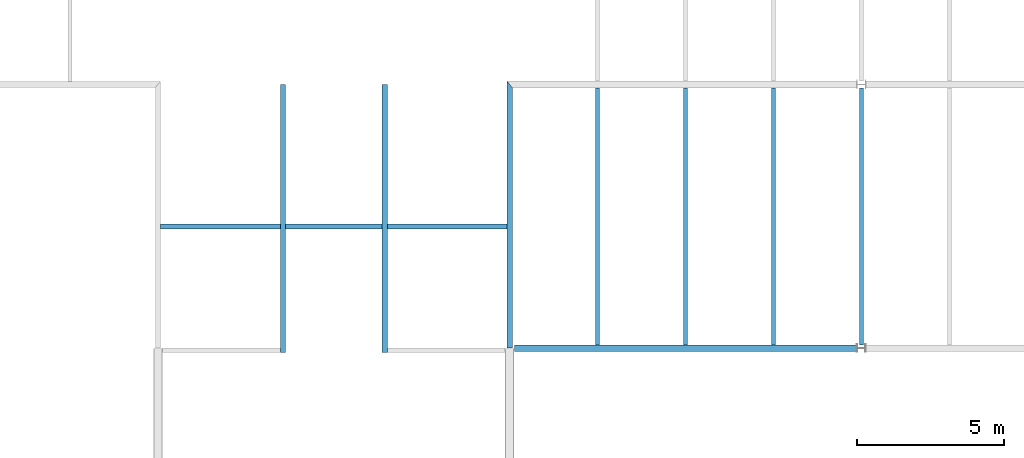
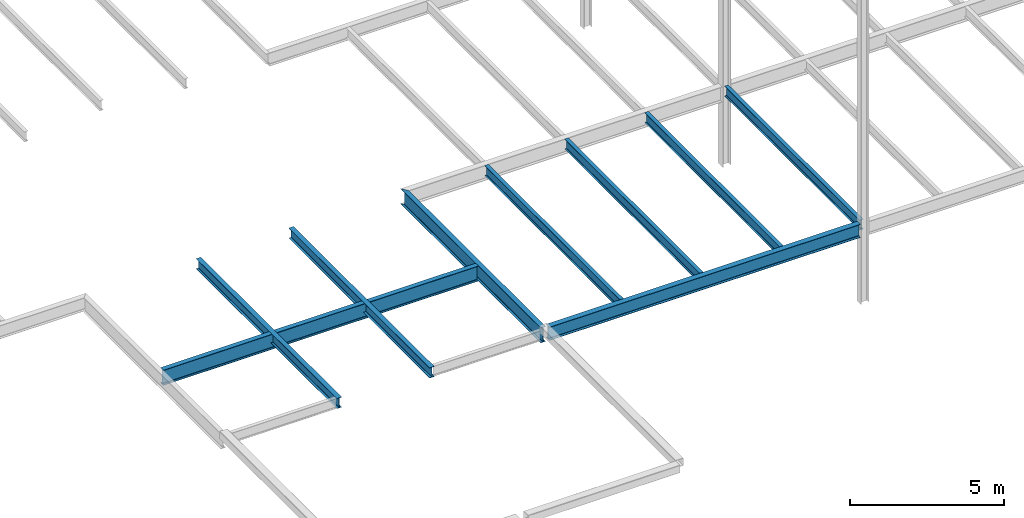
# One storey, part 15 of 26: 9 beams.
"""IFC2X3 building model written with IfcOpenShell, lengths in millimetres."""

import ifcopenshell
import ifcopenshell.guid

model = None  # the IFC model being written
_history = None  # IfcOwnerHistory: only IFC2X3 demands one
_inside = {}  # id of a spatial element -> (the spatial element, [elements in it])
_under = {}  # id of a project, library or spatial element -> (it, [spatial elements below it])
_declared = {}  # id of a project -> (the project, [libraries it declares])
_typed = {}  # id of a type object -> (the type object, [elements of that type])
_made_of = {}  # id of a material, layer set ... -> (it, [elements and type objects made of it])


def new_model(schema):
    """Start an empty IFC model of exactly this schema.

    Asked for "IFC4X3", IfcOpenShell would pick the latest addendum, in which some entities
    have other attributes; the version numbers below select the first issue.
    IFC2X3 requires an IfcOwnerHistory on every rooted entity: one is made here for all.
    """
    global model, _history
    if schema == "IFC4X3":
        model = ifcopenshell.file(schema_version=(4, 3, 0, 0))
    else:
        model = ifcopenshell.file(schema=schema)
    _inside.clear()
    _under.clear()
    _declared.clear()
    _typed.clear()
    _made_of.clear()
    _history = None
    if model.schema == "IFC2X3":
        org = make("IfcOrganization", Name="unknown")
        user = make(
            "IfcPersonAndOrganization",
            ThePerson=make("IfcPerson", FamilyName="unknown"),
            TheOrganization=org,
        )
        app = make(
            "IfcApplication",
            ApplicationDeveloper=org,
            Version="unknown",
            ApplicationFullName="unknown",
            ApplicationIdentifier="unknown",
        )
        _history = make(
            "IfcOwnerHistory",
            OwningUser=user,
            OwningApplication=app,
            ChangeAction="ADDED",
            CreationDate=0,
        )
    return model


def make(cls, **values):
    """One entity of the class cls with the attributes given. An attribute that is None is left unset."""
    return model.create_entity(
        cls, **{name: value for name, value in values.items() if value is not None}
    )


def rooted(cls, **values):
    """An entity with a GlobalId (a new one), such as an element, a storey or a relation."""
    return make(cls, GlobalId=ifcopenshell.guid.new(), OwnerHistory=_history, **values)


def si_unit(unit_type, name, prefix=None):
    """IfcSIUnit, for example si_unit("LENGTHUNIT", "METRE", prefix="MILLI")."""
    return make("IfcSIUnit", UnitType=unit_type, Prefix=prefix, Name=name)


def assignment(units):
    """IfcUnitAssignment: the units of a project."""
    return None if units is None else make("IfcUnitAssignment", Units=units)


def point(xyz):
    """IfcCartesianPoint."""
    return None if xyz is None else make("IfcCartesianPoint", Coordinates=xyz)


def direction(xyz):
    """IfcDirection."""
    return None if xyz is None else make("IfcDirection", DirectionRatios=xyz)


def frame(location, z_axis=None, x_axis=None):
    """IfcAxis2Placement3D, a coordinate frame: its origin and axes. An axis left out is left unset."""
    return make(
        "IfcAxis2Placement3D",
        Location=point(location),
        Axis=direction(z_axis),
        RefDirection=direction(x_axis),
    )


def origin():
    """The frame at (0, 0, 0) with its axes left unset."""
    return frame((0.0, 0.0, 0.0))


def place(relative_to, where):
    """IfcLocalPlacement: puts the frame where relative to a parent placement (None: the world)."""
    return make(
        "IfcLocalPlacement", PlacementRelTo=relative_to, RelativePlacement=where
    )


def context(
    kind, dimensions, precision=None, world=None, true_north=None, identifier=None
):
    """IfcGeometricRepresentationContext, for example the 3D "Model" context."""
    return make(
        "IfcGeometricRepresentationContext",
        ContextIdentifier=identifier,
        ContextType=kind,
        CoordinateSpaceDimension=dimensions,
        Precision=precision,
        WorldCoordinateSystem=world,
        TrueNorth=true_north,
    )


def project(units=None, contexts=None):
    """IfcProject with its units and contexts."""
    return rooted(
        "IfcProject",
        Name="project",
        RepresentationContexts=contexts,
        UnitsInContext=assignment(units),
    )


def spatial(cls, under=None, at=None, **own):
    """A site, building, storey or space (cls), placed at a placement, below another one or the project."""
    s = rooted(cls, ObjectPlacement=at, **own)
    if under is not None:
        _under.setdefault(under.id(), (under, []))[1].append(s)
    return s


def faces_of(points, faces, orient=None, outer=None):
    """IfcFace entities. A face is a list of loops; a loop is a list of indices into points, from 0.

    orient and outer hold one flag for each loop. By default every Orientation is true, the
    first loop of a face is its IfcFaceOuterBound and the others are IfcFaceBound.
    """
    made = []
    for i, loops in enumerate(faces):
        bounds = []
        for j, loop in enumerate(loops):
            is_outer = j == 0 if outer is None else outer[i][j]
            bounds.append(
                make(
                    "IfcFaceOuterBound" if is_outer else "IfcFaceBound",
                    Bound=make("IfcPolyLoop", Polygon=[points[k] for k in loop]),
                    Orientation=True if orient is None else orient[i][j],
                )
            )
        made.append(make("IfcFace", Bounds=bounds))
    return made


def faceted_brep(points, faces, orient=None, outer=None, voids=None):
    """IfcFacetedBrep: a solid bounded by flat faces; with voids (closed shells), ...WithVoids."""
    shared = [point(p) for p in points]
    hull = make("IfcClosedShell", CfsFaces=faces_of(shared, faces, orient, outer))
    if voids is None:
        return make("IfcFacetedBrep", Outer=hull)
    return make(
        "IfcFacetedBrepWithVoids",
        Outer=hull,
        Voids=[
            make(cls, CfsFaces=faces_of(shared, fs, o, b)) for cls, fs, o, b in voids
        ],
    )


def shape(context_of_items, identifier, shape_type, items):
    """IfcShapeRepresentation: the items that make up one representation, for example the "Body"."""
    return make(
        "IfcShapeRepresentation",
        ContextOfItems=context_of_items,
        RepresentationIdentifier=identifier,
        RepresentationType=shape_type,
        Items=items,
    )


def material(Name=None, Category=None):
    """IfcMaterial."""
    return make("IfcMaterial", Name=Name, Category=Category)


def made_of(thing, what):
    """Note that an element or type object is made of a material, layer set ...; save() writes the relation."""
    if what is not None:
        _made_of.setdefault(what.id(), (what, []))[1].append(thing)
    return thing


def element(
    cls,
    number,
    at=None,
    inside=None,
    cuts=None,
    type_object=None,
    material=None,
    context=None,
    identifier="Body",
    shape_type=None,
    held_by="IfcProductDefinitionShape",
    body=None,
    shapes=None,
    **own,
):
    """One element of the class cls, such as IfcWall. Its Tag is "e" and its number.

    at: its placement. inside: the storey or other place that contains it. cuts: it is an
    opening in that element (IfcRelVoidsElement). A single representation is given by context,
    identifier, shape_type and body (its items); several are given by shapes. held_by: the class
    of the entity that holds the representations. save() writes the other relations.
    """
    e = rooted(cls, Tag="e%d" % number, ObjectPlacement=at, **own)
    if body is not None:
        shapes = [shape(context, identifier, shape_type, body)]
    if shapes is not None:
        e.Representation = make(held_by, Representations=shapes)
    if inside is not None:
        _inside.setdefault(inside.id(), (inside, []))[1].append(e)
    if cuts is not None:
        rooted(
            "IfcRelVoidsElement", RelatingBuildingElement=cuts, RelatedOpeningElement=e
        )
    if type_object is not None:
        _typed.setdefault(type_object.id(), (type_object, []))[1].append(e)
    return made_of(e, material)


def aggregate(whole, parts):
    """IfcRelAggregates: a whole, such as a stair, and the parts it consists of."""
    return rooted("IfcRelAggregates", RelatingObject=whole, RelatedObjects=parts)


def save(model, path):
    """Write the relations noted so far, then the file.

    IfcRelAggregates (storeys below a building ...), IfcRelContainedInSpatialStructure (elements
    in a storey), IfcRelDefinesByType, IfcRelAssociatesMaterial and IfcRelDeclares: one each for
    every whole, place, type object, material and project.
    """
    for whole, parts in _under.values():
        aggregate(whole, parts)
    for where, things in _inside.values():
        rooted(
            "IfcRelContainedInSpatialStructure",
            RelatedElements=things,
            RelatingStructure=where,
        )
    for kind, things in _typed.values():
        rooted("IfcRelDefinesByType", RelatedObjects=things, RelatingType=kind)
    for what, things in _made_of.values():
        rooted("IfcRelAssociatesMaterial", RelatedObjects=things, RelatingMaterial=what)
    for by, libraries in _declared.values():
        rooted("IfcRelDeclares", RelatingContext=by, RelatedDefinitions=libraries)
    model.write(path)


model = new_model("IFC2X3")

# Units and contexts
context_of_model = context(None, 3, precision=1e-05, world=origin())
ifc_project = project(units=[si_unit("LENGTHUNIT", "METRE", prefix="MILLI")], contexts=[context_of_model])

# Building, storey
building = spatial("IfcBuilding", under=ifc_project, Name="Building", CompositionType="ELEMENT")
storey = spatial("IfcBuildingStorey", under=building, Name="FL4-FRM", CompositionType="ELEMENT")

# Beams
ifc_material_1 = material(Name="A992")
beam_1_placement = place(None, origin())
element("IfcBeam", 1, at=beam_1_placement, inside=storey, material=ifc_material_1, Name="B204", context=context_of_model, shape_type="Brep", body=[
    faceted_brep([(24070.0, 9104.5, 12974.0), (23930.0, 9104.5, 12974.0), (23930.0, 17885.5, 12974.0), (24070.0, 17885.5, 12974.0), (23930.0, 9104.5, 12982.8), (23930.0, 17885.5, 12982.8), (23986.6, 9104.5, 12982.8), (23986.6, 17885.5, 12982.8), (23989.2, 9104.5, 12983.1), (23989.2, 17885.5, 12983.1), (23991.7, 9104.5, 12984.2), (23991.7, 17885.5, 12984.2), (23993.8, 9104.5, 12985.8), (23993.8, 17885.5, 12985.8), (23995.4, 9104.5, 12987.9), (23995.4, 17885.5, 12987.9), (23996.5, 9104.5, 12990.4), (23996.5, 17885.5, 12990.4), (23996.8, 9104.5, 12993.0), (23996.8, 17885.5, 12993.0), (23996.8, 9104.5, 13354.0), (23996.8, 17885.5, 13354.0), (23996.5, 9104.5, 13356.6), (23996.5, 17885.5, 13356.6), (23995.4, 9104.5, 13359.1), (23995.4, 17885.5, 13359.1), (23993.8, 9104.5, 13361.2), (23993.8, 17885.5, 13361.2), (23991.7, 9104.5, 13362.8), (23991.7, 17885.5, 13362.8), (23989.2, 9104.5, 13363.9), (23989.2, 17885.5, 13363.9), (23986.6, 9104.5, 13364.2), (23986.6, 17885.5, 13364.2), (23930.0, 9104.5, 13364.2), (23930.0, 17885.5, 13364.2), (23930.0, 9104.5, 13373.0), (23930.0, 17885.5, 13373.0), (24070.0, 9104.5, 13373.0), (24070.0, 17885.5, 13373.0), (24070.0, 9104.5, 13364.2), (24070.0, 17885.5, 13364.2), (24013.4, 9104.5, 13364.2), (24013.4, 17885.5, 13364.2), (24010.8, 9104.5, 13363.9), (24010.8, 17885.5, 13363.9), (24008.3, 9104.5, 13362.8), (24008.3, 17885.5, 13362.8), (24006.2, 9104.5, 13361.2), (24006.2, 17885.5, 13361.2), (24004.6, 9104.5, 13359.1), (24004.6, 17885.5, 13359.1), (24003.5, 9104.5, 13356.6), (24003.5, 17885.5, 13356.6), (24003.2, 9104.5, 13354.0), (24003.2, 17885.5, 13354.0), (24003.2, 9104.5, 12993.0), (24003.2, 17885.5, 12993.0), (24003.5, 9104.5, 12990.4), (24003.5, 17885.5, 12990.4), (24004.6, 9104.5, 12987.9), (24004.6, 17885.5, 12987.9), (24006.2, 9104.5, 12985.8), (24006.2, 17885.5, 12985.8), (24008.3, 9104.5, 12984.2), (24008.3, 17885.5, 12984.2), (24010.8, 9104.5, 12983.1), (24010.8, 17885.5, 12983.1), (24013.4, 9104.5, 12982.8), (24013.4, 17885.5, 12982.8), (24070.0, 9104.5, 12982.8), (24070.0, 17885.5, 12982.8)], [[[0, 1, 2, 3]], [[1, 4, 5, 2]], [[4, 6, 7, 5]], [[6, 8, 9, 7]], [[8, 10, 11, 9]], [[10, 12, 13, 11]], [[12, 14, 15, 13]], [[14, 16, 17, 15]], [[16, 18, 19, 17]], [[18, 20, 21, 19]], [[20, 22, 23, 21]], [[22, 24, 25, 23]], [[24, 26, 27, 25]], [[26, 28, 29, 27]], [[28, 30, 31, 29]], [[30, 32, 33, 31]], [[32, 34, 35, 33]], [[34, 36, 37, 35]], [[36, 38, 39, 37]], [[38, 40, 41, 39]], [[40, 42, 43, 41]], [[42, 44, 45, 43]], [[44, 46, 47, 45]], [[46, 48, 49, 47]], [[48, 50, 51, 49]], [[50, 52, 53, 51]], [[52, 54, 55, 53]], [[54, 56, 57, 55]], [[56, 58, 59, 57]], [[58, 60, 61, 59]], [[60, 62, 63, 61]], [[62, 64, 65, 63]], [[64, 66, 67, 65]], [[66, 68, 69, 67]], [[68, 70, 71, 69]], [[70, 0, 3, 71]], [[0, 70, 68, 66, 64, 62, 60, 58, 56, 54, 52, 50, 48, 46, 44, 42, 40, 38, 36, 34, 32, 30, 28, 26, 24, 22, 20, 18, 16, 14, 12, 10, 8, 6, 4, 1]], [[3, 2, 5, 7, 9, 11, 13, 15, 17, 19, 21, 23, 25, 27, 29, 31, 33, 35, 37, 39, 41, 43, 45, 47, 49, 51, 53, 55, 57, 59, 61, 63, 65, 67, 69, 71]]]),
])
ifc_material_2 = material(Name="A992")
beam_2_placement = place(None, origin())
element("IfcBeam", 2, at=beam_2_placement, inside=storey, material=ifc_material_2, Name="B210", context=context_of_model, shape_type="Brep", body=[
    faceted_brep([(15070.0, 9104.5, 12974.0), (14930.0, 9104.5, 12974.0), (14930.0, 17885.5, 12974.0), (15070.0, 17885.5, 12974.0), (14930.0, 9104.5, 12982.8), (14930.0, 17885.5, 12982.8), (14986.6, 9104.5, 12982.8), (14986.6, 17885.5, 12982.8), (14989.2, 9104.5, 12983.1), (14989.2, 17885.5, 12983.1), (14991.7, 9104.5, 12984.2), (14991.7, 17885.5, 12984.2), (14993.8, 9104.5, 12985.8), (14993.8, 17885.5, 12985.8), (14995.4, 9104.5, 12987.9), (14995.4, 17885.5, 12987.9), (14996.5, 9104.5, 12990.4), (14996.5, 17885.5, 12990.4), (14996.8, 9104.5, 12993.0), (14996.8, 17885.5, 12993.0), (14996.8, 9104.5, 13354.0), (14996.8, 17885.5, 13354.0), (14996.5, 9104.5, 13356.6), (14996.5, 17885.5, 13356.6), (14995.4, 9104.5, 13359.1), (14995.4, 17885.5, 13359.1), (14993.8, 9104.5, 13361.2), (14993.8, 17885.5, 13361.2), (14991.7, 9104.5, 13362.8), (14991.7, 17885.5, 13362.8), (14989.2, 9104.5, 13363.9), (14989.2, 17885.5, 13363.9), (14986.6, 9104.5, 13364.2), (14986.6, 17885.5, 13364.2), (14930.0, 9104.5, 13364.2), (14930.0, 17885.5, 13364.2), (14930.0, 9104.5, 13373.0), (14930.0, 17885.5, 13373.0), (15070.0, 9104.5, 13373.0), (15070.0, 17885.5, 13373.0), (15070.0, 9104.5, 13364.2), (15070.0, 17885.5, 13364.2), (15013.4, 9104.5, 13364.2), (15013.4, 17885.5, 13364.2), (15010.8, 9104.5, 13363.9), (15010.8, 17885.5, 13363.9), (15008.3, 9104.5, 13362.8), (15008.3, 17885.5, 13362.8), (15006.2, 9104.5, 13361.2), (15006.2, 17885.5, 13361.2), (15004.6, 9104.5, 13359.1), (15004.6, 17885.5, 13359.1), (15003.5, 9104.5, 13356.6), (15003.5, 17885.5, 13356.6), (15003.2, 9104.5, 13354.0), (15003.2, 17885.5, 13354.0), (15003.2, 9104.5, 12993.0), (15003.2, 17885.5, 12993.0), (15003.5, 9104.5, 12990.4), (15003.5, 17885.5, 12990.4), (15004.6, 9104.5, 12987.9), (15004.6, 17885.5, 12987.9), (15006.2, 9104.5, 12985.8), (15006.2, 17885.5, 12985.8), (15008.3, 9104.5, 12984.2), (15008.3, 17885.5, 12984.2), (15010.8, 9104.5, 12983.1), (15010.8, 17885.5, 12983.1), (15013.4, 9104.5, 12982.8), (15013.4, 17885.5, 12982.8), (15070.0, 9104.5, 12982.8), (15070.0, 17885.5, 12982.8)], [[[0, 1, 2, 3]], [[1, 4, 5, 2]], [[4, 6, 7, 5]], [[6, 8, 9, 7]], [[8, 10, 11, 9]], [[10, 12, 13, 11]], [[12, 14, 15, 13]], [[14, 16, 17, 15]], [[16, 18, 19, 17]], [[18, 20, 21, 19]], [[20, 22, 23, 21]], [[22, 24, 25, 23]], [[24, 26, 27, 25]], [[26, 28, 29, 27]], [[28, 30, 31, 29]], [[30, 32, 33, 31]], [[32, 34, 35, 33]], [[34, 36, 37, 35]], [[36, 38, 39, 37]], [[38, 40, 41, 39]], [[40, 42, 43, 41]], [[42, 44, 45, 43]], [[44, 46, 47, 45]], [[46, 48, 49, 47]], [[48, 50, 51, 49]], [[50, 52, 53, 51]], [[52, 54, 55, 53]], [[54, 56, 57, 55]], [[56, 58, 59, 57]], [[58, 60, 61, 59]], [[60, 62, 63, 61]], [[62, 64, 65, 63]], [[64, 66, 67, 65]], [[66, 68, 69, 67]], [[68, 70, 71, 69]], [[70, 0, 3, 71]], [[0, 70, 68, 66, 64, 62, 60, 58, 56, 54, 52, 50, 48, 46, 44, 42, 40, 38, 36, 34, 32, 30, 28, 26, 24, 22, 20, 18, 16, 14, 12, 10, 8, 6, 4, 1]], [[3, 2, 5, 7, 9, 11, 13, 15, 17, 19, 21, 23, 25, 27, 29, 31, 33, 35, 37, 39, 41, 43, 45, 47, 49, 51, 53, 55, 57, 59, 61, 63, 65, 67, 69, 71]]]),
])
ifc_material_3 = material(Name="A992")
beam_3_placement = place(None, origin())
element("IfcBeam", 3, at=beam_3_placement, inside=storey, material=ifc_material_3, Name="B211", context=context_of_model, shape_type="Brep", body=[
    faceted_brep([(18070.0, 9104.5, 12974.0), (17930.0, 9104.5, 12974.0), (17930.0, 17885.5, 12974.0), (18070.0, 17885.5, 12974.0), (17930.0, 9104.5, 12982.8), (17930.0, 17885.5, 12982.8), (17986.6, 9104.5, 12982.8), (17986.6, 17885.5, 12982.8), (17989.2, 9104.5, 12983.1), (17989.2, 17885.5, 12983.1), (17991.7, 9104.5, 12984.2), (17991.7, 17885.5, 12984.2), (17993.8, 9104.5, 12985.8), (17993.8, 17885.5, 12985.8), (17995.4, 9104.5, 12987.9), (17995.4, 17885.5, 12987.9), (17996.5, 9104.5, 12990.4), (17996.5, 17885.5, 12990.4), (17996.8, 9104.5, 12993.0), (17996.8, 17885.5, 12993.0), (17996.8, 9104.5, 13354.0), (17996.8, 17885.5, 13354.0), (17996.5, 9104.5, 13356.6), (17996.5, 17885.5, 13356.6), (17995.4, 9104.5, 13359.1), (17995.4, 17885.5, 13359.1), (17993.8, 9104.5, 13361.2), (17993.8, 17885.5, 13361.2), (17991.7, 9104.5, 13362.8), (17991.7, 17885.5, 13362.8), (17989.2, 9104.5, 13363.9), (17989.2, 17885.5, 13363.9), (17986.6, 9104.5, 13364.2), (17986.6, 17885.5, 13364.2), (17930.0, 9104.5, 13364.2), (17930.0, 17885.5, 13364.2), (17930.0, 9104.5, 13373.0), (17930.0, 17885.5, 13373.0), (18070.0, 9104.5, 13373.0), (18070.0, 17885.5, 13373.0), (18070.0, 9104.5, 13364.2), (18070.0, 17885.5, 13364.2), (18013.4, 9104.5, 13364.2), (18013.4, 17885.5, 13364.2), (18010.8, 9104.5, 13363.9), (18010.8, 17885.5, 13363.9), (18008.3, 9104.5, 13362.8), (18008.3, 17885.5, 13362.8), (18006.2, 9104.5, 13361.2), (18006.2, 17885.5, 13361.2), (18004.6, 9104.5, 13359.1), (18004.6, 17885.5, 13359.1), (18003.5, 9104.5, 13356.6), (18003.5, 17885.5, 13356.6), (18003.2, 9104.5, 13354.0), (18003.2, 17885.5, 13354.0), (18003.2, 9104.5, 12993.0), (18003.2, 17885.5, 12993.0), (18003.5, 9104.5, 12990.4), (18003.5, 17885.5, 12990.4), (18004.6, 9104.5, 12987.9), (18004.6, 17885.5, 12987.9), (18006.2, 9104.5, 12985.8), (18006.2, 17885.5, 12985.8), (18008.3, 9104.5, 12984.2), (18008.3, 17885.5, 12984.2), (18010.8, 9104.5, 12983.1), (18010.8, 17885.5, 12983.1), (18013.4, 9104.5, 12982.8), (18013.4, 17885.5, 12982.8), (18070.0, 9104.5, 12982.8), (18070.0, 17885.5, 12982.8)], [[[0, 1, 2, 3]], [[1, 4, 5, 2]], [[4, 6, 7, 5]], [[6, 8, 9, 7]], [[8, 10, 11, 9]], [[10, 12, 13, 11]], [[12, 14, 15, 13]], [[14, 16, 17, 15]], [[16, 18, 19, 17]], [[18, 20, 21, 19]], [[20, 22, 23, 21]], [[22, 24, 25, 23]], [[24, 26, 27, 25]], [[26, 28, 29, 27]], [[28, 30, 31, 29]], [[30, 32, 33, 31]], [[32, 34, 35, 33]], [[34, 36, 37, 35]], [[36, 38, 39, 37]], [[38, 40, 41, 39]], [[40, 42, 43, 41]], [[42, 44, 45, 43]], [[44, 46, 47, 45]], [[46, 48, 49, 47]], [[48, 50, 51, 49]], [[50, 52, 53, 51]], [[52, 54, 55, 53]], [[54, 56, 57, 55]], [[56, 58, 59, 57]], [[58, 60, 61, 59]], [[60, 62, 63, 61]], [[62, 64, 65, 63]], [[64, 66, 67, 65]], [[66, 68, 69, 67]], [[68, 70, 71, 69]], [[70, 0, 3, 71]], [[0, 70, 68, 66, 64, 62, 60, 58, 56, 54, 52, 50, 48, 46, 44, 42, 40, 38, 36, 34, 32, 30, 28, 26, 24, 22, 20, 18, 16, 14, 12, 10, 8, 6, 4, 1]], [[3, 2, 5, 7, 9, 11, 13, 15, 17, 19, 21, 23, 25, 27, 29, 31, 33, 35, 37, 39, 41, 43, 45, 47, 49, 51, 53, 55, 57, 59, 61, 63, 65, 67, 69, 71]]]),
])
ifc_material_4 = material(Name="A992")
beam_4_placement = place(None, origin())
element("IfcBeam", 4, at=beam_4_placement, inside=storey, material=ifc_material_4, Name="B212", context=context_of_model, shape_type="Brep", body=[
    faceted_brep([(21070.0, 9104.5, 12974.0), (20930.0, 9104.5, 12974.0), (20930.0, 17885.5, 12974.0), (21070.0, 17885.5, 12974.0), (20930.0, 9104.5, 12982.8), (20930.0, 17885.5, 12982.8), (20986.6, 9104.5, 12982.8), (20986.6, 17885.5, 12982.8), (20989.2, 9104.5, 12983.1), (20989.2, 17885.5, 12983.1), (20991.7, 9104.5, 12984.2), (20991.7, 17885.5, 12984.2), (20993.8, 9104.5, 12985.8), (20993.8, 17885.5, 12985.8), (20995.4, 9104.5, 12987.9), (20995.4, 17885.5, 12987.9), (20996.5, 9104.5, 12990.4), (20996.5, 17885.5, 12990.4), (20996.8, 9104.5, 12993.0), (20996.8, 17885.5, 12993.0), (20996.8, 9104.5, 13354.0), (20996.8, 17885.5, 13354.0), (20996.5, 9104.5, 13356.6), (20996.5, 17885.5, 13356.6), (20995.4, 9104.5, 13359.1), (20995.4, 17885.5, 13359.1), (20993.8, 9104.5, 13361.2), (20993.8, 17885.5, 13361.2), (20991.7, 9104.5, 13362.8), (20991.7, 17885.5, 13362.8), (20989.2, 9104.5, 13363.9), (20989.2, 17885.5, 13363.9), (20986.6, 9104.5, 13364.2), (20986.6, 17885.5, 13364.2), (20930.0, 9104.5, 13364.2), (20930.0, 17885.5, 13364.2), (20930.0, 9104.5, 13373.0), (20930.0, 17885.5, 13373.0), (21070.0, 9104.5, 13373.0), (21070.0, 17885.5, 13373.0), (21070.0, 9104.5, 13364.2), (21070.0, 17885.5, 13364.2), (21013.4, 9104.5, 13364.2), (21013.4, 17885.5, 13364.2), (21010.8, 9104.5, 13363.9), (21010.8, 17885.5, 13363.9), (21008.3, 9104.5, 13362.8), (21008.3, 17885.5, 13362.8), (21006.2, 9104.5, 13361.2), (21006.2, 17885.5, 13361.2), (21004.6, 9104.5, 13359.1), (21004.6, 17885.5, 13359.1), (21003.5, 9104.5, 13356.6), (21003.5, 17885.5, 13356.6), (21003.2, 9104.5, 13354.0), (21003.2, 17885.5, 13354.0), (21003.2, 9104.5, 12993.0), (21003.2, 17885.5, 12993.0), (21003.5, 9104.5, 12990.4), (21003.5, 17885.5, 12990.4), (21004.6, 9104.5, 12987.9), (21004.6, 17885.5, 12987.9), (21006.2, 9104.5, 12985.8), (21006.2, 17885.5, 12985.8), (21008.3, 9104.5, 12984.2), (21008.3, 17885.5, 12984.2), (21010.8, 9104.5, 12983.1), (21010.8, 17885.5, 12983.1), (21013.4, 9104.5, 12982.8), (21013.4, 17885.5, 12982.8), (21070.0, 9104.5, 12982.8), (21070.0, 17885.5, 12982.8)], [[[0, 1, 2, 3]], [[1, 4, 5, 2]], [[4, 6, 7, 5]], [[6, 8, 9, 7]], [[8, 10, 11, 9]], [[10, 12, 13, 11]], [[12, 14, 15, 13]], [[14, 16, 17, 15]], [[16, 18, 19, 17]], [[18, 20, 21, 19]], [[20, 22, 23, 21]], [[22, 24, 25, 23]], [[24, 26, 27, 25]], [[26, 28, 29, 27]], [[28, 30, 31, 29]], [[30, 32, 33, 31]], [[32, 34, 35, 33]], [[34, 36, 37, 35]], [[36, 38, 39, 37]], [[38, 40, 41, 39]], [[40, 42, 43, 41]], [[42, 44, 45, 43]], [[44, 46, 47, 45]], [[46, 48, 49, 47]], [[48, 50, 51, 49]], [[50, 52, 53, 51]], [[52, 54, 55, 53]], [[54, 56, 57, 55]], [[56, 58, 59, 57]], [[58, 60, 61, 59]], [[60, 62, 63, 61]], [[62, 64, 65, 63]], [[64, 66, 67, 65]], [[66, 68, 69, 67]], [[68, 70, 71, 69]], [[70, 0, 3, 71]], [[0, 70, 68, 66, 64, 62, 60, 58, 56, 54, 52, 50, 48, 46, 44, 42, 40, 38, 36, 34, 32, 30, 28, 26, 24, 22, 20, 18, 16, 14, 12, 10, 8, 6, 4, 1]], [[3, 2, 5, 7, 9, 11, 13, 15, 17, 19, 21, 23, 25, 27, 29, 31, 33, 35, 37, 39, 41, 43, 45, 47, 49, 51, 53, 55, 57, 59, 61, 63, 65, 67, 69, 71]]]),
])
ifc_material_5 = material(Name="A992")
beam_5_placement = place(None, origin())
element("IfcBeam", 5, at=beam_5_placement, inside=storey, material=ifc_material_5, Name="B213", context=context_of_model, shape_type="Brep", body=[
    faceted_brep([(12089.5, 9009.0, 12770.0), (11910.5, 9009.0, 12770.0), (11910.5, 18114.5, 12770.0), (12089.5, 17885.5, 12770.0), (11910.5, 9009.0, 12785.0), (11910.5, 18114.5, 12785.0), (11979.4, 9009.0, 12785.0), (11979.4, 18026.4, 12785.0), (11981.7, 9009.0, 12785.2), (11981.7, 18023.4, 12785.1), (11984.0, 9009.0, 12785.7), (11984.0, 18020.4, 12785.7), (11986.3, 9009.0, 12786.7), (11986.2, 18017.7, 12786.6), (11988.3, 9009.0, 12787.9), (11988.2, 18015.1, 12787.8), (11990.1, 9009.0, 12789.5), (11990.1, 18012.7, 12789.5), (11991.6, 9009.0, 12791.3), (11991.6, 18010.8, 12791.2), (11992.9, 9009.0, 12793.3), (11992.9, 18009.1, 12793.2), (11993.8, 9009.0, 12795.5), (11993.8, 18008.0, 12795.5), (11994.4, 9009.0, 12797.8), (11994.3, 18007.3, 12797.8), (11994.6, 9009.0, 12800.2), (11994.6, 18007.0, 12800.2), (11994.6, 9009.0, 13342.8), (11994.6, 18007.0, 13342.8), (11994.4, 9009.0, 13345.2), (11994.3, 18007.3, 13345.2), (11993.8, 9009.0, 13347.5), (11993.8, 18008.0, 13347.5), (11992.9, 9009.0, 13349.7), (11992.9, 18009.1, 13349.8), (11991.6, 9009.0, 13351.7), (11991.6, 18010.8, 13351.8), (11990.1, 9009.0, 13353.5), (11990.1, 18012.7, 13353.5), (11988.3, 9009.0, 13355.1), (11988.2, 18015.1, 13355.2), (11986.3, 9009.0, 13356.3), (11986.2, 18017.7, 13356.4), (11984.0, 9009.0, 13357.3), (11984.0, 18020.4, 13357.3), (11981.7, 9009.0, 13357.8), (11981.7, 18023.4, 13357.9), (11979.4, 9009.0, 13358.0), (11979.4, 18026.4, 13358.0), (11910.5, 9009.0, 13358.0), (11910.5, 18114.5, 13358.0), (11910.5, 9009.0, 13373.0), (11910.5, 18114.5, 13373.0), (12089.5, 9009.0, 13373.0), (12089.5, 17885.5, 13373.0), (12089.5, 9009.0, 13358.0), (12089.5, 17885.5, 13358.0), (12020.6, 9009.0, 13358.0), (12020.6, 17973.6, 13358.0), (12018.3, 9009.0, 13357.8), (12018.3, 17976.6, 13357.9), (12016.0, 9009.0, 13357.3), (12016.0, 17979.6, 13357.3), (12013.7, 9009.0, 13356.3), (12013.8, 17982.3, 13356.4), (12011.7, 9009.0, 13355.1), (12011.8, 17984.9, 13355.2), (12009.9, 9009.0, 13353.5), (12009.9, 17987.3, 13353.5), (12008.4, 9009.0, 13351.7), (12008.4, 17989.2, 13351.8), (12007.1, 9009.0, 13349.7), (12007.1, 17990.9, 13349.8), (12006.2, 9009.0, 13347.5), (12006.2, 17992.0, 13347.5), (12005.6, 9009.0, 13345.2), (12005.7, 17992.7, 13345.2), (12005.4, 9009.0, 13342.8), (12005.4, 17993.0, 13342.8), (12005.4, 9009.0, 12800.2), (12005.4, 17993.0, 12800.2), (12005.6, 9009.0, 12797.8), (12005.7, 17992.7, 12797.8), (12006.2, 9009.0, 12795.5), (12006.2, 17992.0, 12795.5), (12007.1, 9009.0, 12793.3), (12007.1, 17990.9, 12793.2), (12008.4, 9009.0, 12791.3), (12008.4, 17989.2, 12791.2), (12009.9, 9009.0, 12789.5), (12009.9, 17987.3, 12789.5), (12011.7, 9009.0, 12787.9), (12011.8, 17984.9, 12787.8), (12013.7, 9009.0, 12786.7), (12013.8, 17982.3, 12786.6), (12016.0, 9009.0, 12785.7), (12016.0, 17979.6, 12785.7), (12018.3, 9009.0, 12785.2), (12018.3, 17976.6, 12785.1), (12020.6, 9009.0, 12785.0), (12020.6, 17973.6, 12785.0), (12089.5, 9009.0, 12785.0), (12089.5, 17885.5, 12785.0)], [[[0, 1, 2, 3]], [[1, 4, 5, 2]], [[4, 6, 7, 5]], [[6, 8, 9, 7]], [[8, 10, 11, 9]], [[10, 12, 13, 11]], [[12, 14, 15, 13]], [[14, 16, 17, 15]], [[16, 18, 19, 17]], [[18, 20, 21, 19]], [[20, 22, 23, 21]], [[22, 24, 25, 23]], [[24, 26, 27, 25]], [[26, 28, 29, 27]], [[28, 30, 31, 29]], [[30, 32, 33, 31]], [[32, 34, 35, 33]], [[34, 36, 37, 35]], [[36, 38, 39, 37]], [[38, 40, 41, 39]], [[40, 42, 43, 41]], [[42, 44, 45, 43]], [[44, 46, 47, 45]], [[46, 48, 49, 47]], [[48, 50, 51, 49]], [[50, 52, 53, 51]], [[52, 54, 55, 53]], [[54, 56, 57, 55]], [[56, 58, 59, 57]], [[58, 60, 61, 59]], [[60, 62, 63, 61]], [[62, 64, 65, 63]], [[64, 66, 67, 65]], [[66, 68, 69, 67]], [[68, 70, 71, 69]], [[70, 72, 73, 71]], [[72, 74, 75, 73]], [[74, 76, 77, 75]], [[76, 78, 79, 77]], [[78, 80, 81, 79]], [[80, 82, 83, 81]], [[82, 84, 85, 83]], [[84, 86, 87, 85]], [[86, 88, 89, 87]], [[88, 90, 91, 89]], [[90, 92, 93, 91]], [[92, 94, 95, 93]], [[94, 96, 97, 95]], [[96, 98, 99, 97]], [[98, 100, 101, 99]], [[100, 102, 103, 101]], [[102, 0, 3, 103]], [[0, 102, 100, 98, 96, 94, 92, 90, 88, 86, 84, 82, 80, 78, 76, 74, 72, 70, 68, 66, 64, 62, 60, 58, 56, 54, 52, 50, 48, 46, 44, 42, 40, 38, 36, 34, 32, 30, 28, 26, 24, 22, 20, 18, 16, 14, 12, 10, 8, 6, 4, 1]], [[3, 2, 5, 7, 9, 11, 13, 15, 17, 19, 21, 23, 25, 27, 29, 31, 33, 35, 37, 39, 41, 43, 45, 47, 49, 51, 53, 55, 57, 59, 61, 63, 65, 67, 69, 71, 73, 75, 77, 79, 81, 83, 85, 87, 89, 91, 93, 95, 97, 99, 101, 103]]]),
])
ifc_material_6 = material(Name="A992")
beam_6_placement = place(None, origin())
element("IfcBeam", 6, at=beam_6_placement, inside=storey, material=ifc_material_6, Name="Column388", context=context_of_model, shape_type="Brep", body=[
    faceted_brep([(12166.5, 8895.5, 12845.0), (12166.5, 9104.5, 12845.0), (23847.0, 9104.5, 12845.0), (23847.0, 8895.5, 12845.0), (12166.5, 9104.5, 12858.3), (23847.0, 9104.5, 12858.3), (12166.5, 9017.45, 12858.3), (23847.0, 9017.45, 12858.3), (12166.5, 9014.16, 12858.7), (23847.0, 9014.16, 12858.7), (12166.5, 9011.1, 12860.0), (23847.0, 9011.1, 12860.0), (12166.5, 9008.47, 12862.0), (23847.0, 9008.47, 12862.0), (12166.5, 9006.45, 12864.7), (23847.0, 9006.45, 12864.7), (12166.5, 9005.18, 12867.7), (23847.0, 9005.18, 12867.7), (12166.5, 9004.75, 12871.0), (23847.0, 9004.75, 12871.0), (12166.5, 9004.75, 13347.0), (23847.0, 9004.75, 13347.0), (12166.5, 9005.18, 13350.3), (23847.0, 9005.18, 13350.3), (12166.5, 9006.45, 13353.3), (23847.0, 9006.45, 13353.3), (12166.5, 9008.47, 13356.0), (23847.0, 9008.47, 13356.0), (12166.5, 9011.1, 13358.0), (23847.0, 9011.1, 13358.0), (12166.5, 9014.16, 13359.3), (23847.0, 9014.16, 13359.3), (12166.5, 9017.45, 13359.7), (23847.0, 9017.45, 13359.7), (12166.5, 9104.5, 13359.7), (23847.0, 9104.5, 13359.7), (12166.5, 9104.5, 13373.0), (23847.0, 9104.5, 13373.0), (12166.5, 8895.5, 13373.0), (23847.0, 8895.5, 13373.0), (12166.5, 8895.5, 13359.7), (23847.0, 8895.5, 13359.7), (12166.5, 8982.55, 13359.7), (23847.0, 8982.55, 13359.7), (12166.5, 8985.84, 13359.3), (23847.0, 8985.84, 13359.3), (12166.5, 8988.9, 13358.0), (23847.0, 8988.9, 13358.0), (12166.5, 8991.53, 13356.0), (23847.0, 8991.53, 13356.0), (12166.5, 8993.55, 13353.3), (23847.0, 8993.55, 13353.3), (12166.5, 8994.82, 13350.3), (23847.0, 8994.82, 13350.3), (12166.5, 8995.25, 13347.0), (23847.0, 8995.25, 13347.0), (12166.5, 8995.25, 12871.0), (23847.0, 8995.25, 12871.0), (12166.5, 8994.82, 12867.7), (23847.0, 8994.82, 12867.7), (12166.5, 8993.55, 12864.7), (23847.0, 8993.55, 12864.7), (12166.5, 8991.53, 12862.0), (23847.0, 8991.53, 12862.0), (12166.5, 8988.9, 12860.0), (23847.0, 8988.9, 12860.0), (12166.5, 8985.84, 12858.7), (23847.0, 8985.84, 12858.7), (12166.5, 8982.55, 12858.3), (23847.0, 8982.55, 12858.3), (12166.5, 8895.5, 12858.3), (23847.0, 8895.5, 12858.3)], [[[0, 1, 2, 3]], [[1, 4, 5, 2]], [[4, 6, 7, 5]], [[6, 8, 9, 7]], [[8, 10, 11, 9]], [[10, 12, 13, 11]], [[12, 14, 15, 13]], [[14, 16, 17, 15]], [[16, 18, 19, 17]], [[18, 20, 21, 19]], [[20, 22, 23, 21]], [[22, 24, 25, 23]], [[24, 26, 27, 25]], [[26, 28, 29, 27]], [[28, 30, 31, 29]], [[30, 32, 33, 31]], [[32, 34, 35, 33]], [[34, 36, 37, 35]], [[36, 38, 39, 37]], [[38, 40, 41, 39]], [[40, 42, 43, 41]], [[42, 44, 45, 43]], [[44, 46, 47, 45]], [[46, 48, 49, 47]], [[48, 50, 51, 49]], [[50, 52, 53, 51]], [[52, 54, 55, 53]], [[54, 56, 57, 55]], [[56, 58, 59, 57]], [[58, 60, 61, 59]], [[60, 62, 63, 61]], [[62, 64, 65, 63]], [[64, 66, 67, 65]], [[66, 68, 69, 67]], [[68, 70, 71, 69]], [[70, 0, 3, 71]], [[0, 70, 68, 66, 64, 62, 60, 58, 56, 54, 52, 50, 48, 46, 44, 42, 40, 38, 36, 34, 32, 30, 28, 26, 24, 22, 20, 18, 16, 14, 12, 10, 8, 6, 4, 1]], [[3, 2, 5, 7, 9, 11, 13, 15, 17, 19, 21, 23, 25, 27, 29, 31, 33, 35, 37, 39, 41, 43, 45, 47, 49, 51, 53, 55, 57, 59, 61, 63, 65, 67, 69, 71]]]),
])
ifc_material_7 = material(Name="A992")
beam_7_placement = place(None, origin())
element("IfcBeam", 7, at=beam_7_placement, inside=storey, material=ifc_material_7, Name="B752", context=context_of_model, shape_type="Brep", body=[
    faceted_brep([(4351.0, 8851.2, 12966.0), (4173.0, 8851.2, 12966.0), (4173.0, 18000.0, 12966.0), (4351.0, 18000.0, 12966.0), (4173.0, 8851.2, 12978.8), (4173.0, 18000.0, 12978.8), (4247.95, 8851.2, 12978.8), (4247.95, 18000.0, 12978.8), (4250.59, 8851.2, 12979.1), (4250.59, 18000.0, 12979.1), (4253.05, 8851.2, 12980.2), (4253.05, 18000.0, 12980.2), (4255.16, 8851.2, 12981.8), (4255.16, 18000.0, 12981.8), (4256.78, 8851.2, 12983.9), (4256.78, 18000.0, 12983.9), (4257.8, 8851.2, 12986.4), (4257.8, 18000.0, 12986.4), (4258.15, 8851.2, 12989.0), (4258.15, 18000.0, 12989.0), (4258.15, 8851.2, 13350.0), (4258.15, 18000.0, 13350.0), (4257.8, 8851.2, 13352.6), (4257.8, 18000.0, 13352.6), (4256.78, 8851.2, 13355.1), (4256.78, 18000.0, 13355.1), (4255.16, 8851.2, 13357.2), (4255.16, 18000.0, 13357.2), (4253.05, 8851.2, 13358.8), (4253.05, 18000.0, 13358.8), (4250.59, 8851.2, 13359.9), (4250.59, 18000.0, 13359.9), (4247.95, 8851.2, 13360.2), (4247.95, 18000.0, 13360.2), (4173.0, 8851.2, 13360.2), (4173.0, 18000.0, 13360.2), (4173.0, 8851.2, 13373.0), (4173.0, 18000.0, 13373.0), (4351.0, 8851.2, 13373.0), (4351.0, 18000.0, 13373.0), (4351.0, 8851.2, 13360.2), (4351.0, 18000.0, 13360.2), (4276.05, 8851.2, 13360.2), (4276.05, 18000.0, 13360.2), (4273.41, 8851.2, 13359.9), (4273.41, 18000.0, 13359.9), (4270.95, 8851.2, 13358.8), (4270.95, 18000.0, 13358.8), (4268.84, 8851.2, 13357.2), (4268.84, 18000.0, 13357.2), (4267.22, 8851.2, 13355.1), (4267.22, 18000.0, 13355.1), (4266.2, 8851.2, 13352.6), (4266.2, 18000.0, 13352.6), (4265.85, 8851.2, 13350.0), (4265.85, 18000.0, 13350.0), (4265.85, 8851.2, 12989.0), (4265.85, 18000.0, 12989.0), (4266.2, 8851.2, 12986.4), (4266.2, 18000.0, 12986.4), (4267.22, 8851.2, 12983.9), (4267.22, 18000.0, 12983.9), (4268.84, 8851.2, 12981.8), (4268.84, 18000.0, 12981.8), (4270.95, 8851.2, 12980.2), (4270.95, 18000.0, 12980.2), (4273.41, 8851.2, 12979.1), (4273.41, 18000.0, 12979.1), (4276.05, 8851.2, 12978.8), (4276.05, 18000.0, 12978.8), (4351.0, 8851.2, 12978.8), (4351.0, 18000.0, 12978.8)], [[[0, 1, 2, 3]], [[1, 4, 5, 2]], [[4, 6, 7, 5]], [[6, 8, 9, 7]], [[8, 10, 11, 9]], [[10, 12, 13, 11]], [[12, 14, 15, 13]], [[14, 16, 17, 15]], [[16, 18, 19, 17]], [[18, 20, 21, 19]], [[20, 22, 23, 21]], [[22, 24, 25, 23]], [[24, 26, 27, 25]], [[26, 28, 29, 27]], [[28, 30, 31, 29]], [[30, 32, 33, 31]], [[32, 34, 35, 33]], [[34, 36, 37, 35]], [[36, 38, 39, 37]], [[38, 40, 41, 39]], [[40, 42, 43, 41]], [[42, 44, 45, 43]], [[44, 46, 47, 45]], [[46, 48, 49, 47]], [[48, 50, 51, 49]], [[50, 52, 53, 51]], [[52, 54, 55, 53]], [[54, 56, 57, 55]], [[56, 58, 59, 57]], [[58, 60, 61, 59]], [[60, 62, 63, 61]], [[62, 64, 65, 63]], [[64, 66, 67, 65]], [[66, 68, 69, 67]], [[68, 70, 71, 69]], [[70, 0, 3, 71]], [[0, 70, 68, 66, 64, 62, 60, 58, 56, 54, 52, 50, 48, 46, 44, 42, 40, 38, 36, 34, 32, 30, 28, 26, 24, 22, 20, 18, 16, 14, 12, 10, 8, 6, 4, 1]], [[3, 2, 5, 7, 9, 11, 13, 15, 17, 19, 21, 23, 25, 27, 29, 31, 33, 35, 37, 39, 41, 43, 45, 47, 49, 51, 53, 55, 57, 59, 61, 63, 65, 67, 69, 71]]]),
])
ifc_material_8 = material(Name="A992")
beam_8_placement = place(None, origin())
element("IfcBeam", 8, at=beam_8_placement, inside=storey, material=ifc_material_8, Name="B753", context=context_of_model, shape_type="Brep", body=[
    faceted_brep([(7827.0, 8851.2, 12966.0), (7649.0, 8851.2, 12966.0), (7649.0, 18000.0, 12966.0), (7827.0, 18000.0, 12966.0), (7649.0, 8851.2, 12978.8), (7649.0, 18000.0, 12978.8), (7723.95, 8851.2, 12978.8), (7723.95, 18000.0, 12978.8), (7726.59, 8851.2, 12979.1), (7726.59, 18000.0, 12979.1), (7729.05, 8851.2, 12980.2), (7729.05, 18000.0, 12980.2), (7731.16, 8851.2, 12981.8), (7731.16, 18000.0, 12981.8), (7732.78, 8851.2, 12983.9), (7732.78, 18000.0, 12983.9), (7733.8, 8851.2, 12986.4), (7733.8, 18000.0, 12986.4), (7734.15, 8851.2, 12989.0), (7734.15, 18000.0, 12989.0), (7734.15, 8851.2, 13350.0), (7734.15, 18000.0, 13350.0), (7733.8, 8851.2, 13352.6), (7733.8, 18000.0, 13352.6), (7732.78, 8851.2, 13355.1), (7732.78, 18000.0, 13355.1), (7731.16, 8851.2, 13357.2), (7731.16, 18000.0, 13357.2), (7729.05, 8851.2, 13358.8), (7729.05, 18000.0, 13358.8), (7726.59, 8851.2, 13359.9), (7726.59, 18000.0, 13359.9), (7723.95, 8851.2, 13360.2), (7723.95, 18000.0, 13360.2), (7649.0, 8851.2, 13360.2), (7649.0, 18000.0, 13360.2), (7649.0, 8851.2, 13373.0), (7649.0, 18000.0, 13373.0), (7827.0, 8851.2, 13373.0), (7827.0, 18000.0, 13373.0), (7827.0, 8851.2, 13360.2), (7827.0, 18000.0, 13360.2), (7752.05, 8851.2, 13360.2), (7752.05, 18000.0, 13360.2), (7749.41, 8851.2, 13359.9), (7749.41, 18000.0, 13359.9), (7746.95, 8851.2, 13358.8), (7746.95, 18000.0, 13358.8), (7744.84, 8851.2, 13357.2), (7744.84, 18000.0, 13357.2), (7743.22, 8851.2, 13355.1), (7743.22, 18000.0, 13355.1), (7742.2, 8851.2, 13352.6), (7742.2, 18000.0, 13352.6), (7741.85, 8851.2, 13350.0), (7741.85, 18000.0, 13350.0), (7741.85, 8851.2, 12989.0), (7741.85, 18000.0, 12989.0), (7742.2, 8851.2, 12986.4), (7742.2, 18000.0, 12986.4), (7743.22, 8851.2, 12983.9), (7743.22, 18000.0, 12983.9), (7744.84, 8851.2, 12981.8), (7744.84, 18000.0, 12981.8), (7746.95, 8851.2, 12980.2), (7746.95, 18000.0, 12980.2), (7749.41, 8851.2, 12979.1), (7749.41, 18000.0, 12979.1), (7752.05, 8851.2, 12978.8), (7752.05, 18000.0, 12978.8), (7827.0, 8851.2, 12978.8), (7827.0, 18000.0, 12978.8)], [[[0, 1, 2, 3]], [[1, 4, 5, 2]], [[4, 6, 7, 5]], [[6, 8, 9, 7]], [[8, 10, 11, 9]], [[10, 12, 13, 11]], [[12, 14, 15, 13]], [[14, 16, 17, 15]], [[16, 18, 19, 17]], [[18, 20, 21, 19]], [[20, 22, 23, 21]], [[22, 24, 25, 23]], [[24, 26, 27, 25]], [[26, 28, 29, 27]], [[28, 30, 31, 29]], [[30, 32, 33, 31]], [[32, 34, 35, 33]], [[34, 36, 37, 35]], [[36, 38, 39, 37]], [[38, 40, 41, 39]], [[40, 42, 43, 41]], [[42, 44, 45, 43]], [[44, 46, 47, 45]], [[46, 48, 49, 47]], [[48, 50, 51, 49]], [[50, 52, 53, 51]], [[52, 54, 55, 53]], [[54, 56, 57, 55]], [[56, 58, 59, 57]], [[58, 60, 61, 59]], [[60, 62, 63, 61]], [[62, 64, 65, 63]], [[64, 66, 67, 65]], [[66, 68, 69, 67]], [[68, 70, 71, 69]], [[70, 0, 3, 71]], [[0, 70, 68, 66, 64, 62, 60, 58, 56, 54, 52, 50, 48, 46, 44, 42, 40, 38, 36, 34, 32, 30, 28, 26, 24, 22, 20, 18, 16, 14, 12, 10, 8, 6, 4, 1]], [[3, 2, 5, 7, 9, 11, 13, 15, 17, 19, 21, 23, 25, 27, 29, 31, 33, 35, 37, 39, 41, 43, 45, 47, 49, 51, 53, 55, 57, 59, 61, 63, 65, 67, 69, 71]]]),
])
ifc_material_9 = material(Name="A992")
beam_9_placement = place(None, origin())
element("IfcBeam", 9, at=beam_9_placement, inside=storey, material=ifc_material_9, Name="B1190", context=context_of_model, shape_type="Brep", body=[
    faceted_brep([(89.5, 13060.2, 12770.0), (89.5, 13239.2, 12770.0), (11910.5, 13239.2, 12770.0), (11910.5, 13060.2, 12770.0), (89.5, 13239.2, 12785.0), (11910.5, 13239.2, 12785.0), (89.5, 13170.3, 12785.0), (11910.5, 13170.3, 12785.0), (89.5, 13166.4, 12785.5), (11910.5, 13166.4, 12785.5), (89.5, 13162.7, 12787.0), (11910.5, 13162.7, 12787.0), (89.5, 13159.6, 12789.5), (11910.5, 13159.6, 12789.5), (89.5, 13157.1, 12792.6), (11910.5, 13157.1, 12792.6), (89.5, 13155.6, 12796.3), (11910.5, 13155.6, 12796.3), (89.5, 13155.1, 12800.2), (11910.5, 13155.1, 12800.2), (89.5, 13155.1, 13342.8), (11910.5, 13155.1, 13342.8), (89.5, 13155.6, 13346.7), (11910.5, 13155.6, 13346.7), (89.5, 13157.1, 13350.4), (11910.5, 13157.1, 13350.4), (89.5, 13159.6, 13353.5), (11910.5, 13159.6, 13353.5), (89.5, 13162.7, 13356.0), (11910.5, 13162.7, 13356.0), (89.5, 13166.4, 13357.5), (11910.5, 13166.4, 13357.5), (89.5, 13170.3, 13358.0), (11910.5, 13170.3, 13358.0), (89.5, 13239.2, 13358.0), (11910.5, 13239.2, 13358.0), (89.5, 13239.2, 13373.0), (11910.5, 13239.2, 13373.0), (89.5, 13060.2, 13373.0), (11910.5, 13060.2, 13373.0), (89.5, 13060.2, 13358.0), (11910.5, 13060.2, 13358.0), (89.5, 13129.0, 13358.0), (11910.5, 13129.0, 13358.0), (89.5, 13132.9, 13357.5), (11910.5, 13132.9, 13357.5), (89.5, 13136.6, 13356.0), (11910.5, 13136.6, 13356.0), (89.5, 13139.8, 13353.5), (11910.5, 13139.8, 13353.5), (89.5, 13142.2, 13350.4), (11910.5, 13142.2, 13350.4), (89.5, 13143.7, 13346.7), (11910.5, 13143.7, 13346.7), (89.5, 13144.2, 13342.8), (11910.5, 13144.2, 13342.8), (89.5, 13144.2, 12800.2), (11910.5, 13144.2, 12800.2), (89.5, 13143.7, 12796.3), (11910.5, 13143.7, 12796.3), (89.5, 13142.2, 12792.6), (11910.5, 13142.2, 12792.6), (89.5, 13139.8, 12789.5), (11910.5, 13139.8, 12789.5), (89.5, 13136.6, 12787.0), (11910.5, 13136.6, 12787.0), (89.5, 13132.9, 12785.5), (11910.5, 13132.9, 12785.5), (89.5, 13129.0, 12785.0), (11910.5, 13129.0, 12785.0), (89.5, 13060.2, 12785.0), (11910.5, 13060.2, 12785.0)], [[[0, 1, 2, 3]], [[1, 4, 5, 2]], [[4, 6, 7, 5]], [[6, 8, 9, 7]], [[8, 10, 11, 9]], [[10, 12, 13, 11]], [[12, 14, 15, 13]], [[14, 16, 17, 15]], [[16, 18, 19, 17]], [[18, 20, 21, 19]], [[20, 22, 23, 21]], [[22, 24, 25, 23]], [[24, 26, 27, 25]], [[26, 28, 29, 27]], [[28, 30, 31, 29]], [[30, 32, 33, 31]], [[32, 34, 35, 33]], [[34, 36, 37, 35]], [[36, 38, 39, 37]], [[38, 40, 41, 39]], [[40, 42, 43, 41]], [[42, 44, 45, 43]], [[44, 46, 47, 45]], [[46, 48, 49, 47]], [[48, 50, 51, 49]], [[50, 52, 53, 51]], [[52, 54, 55, 53]], [[54, 56, 57, 55]], [[56, 58, 59, 57]], [[58, 60, 61, 59]], [[60, 62, 63, 61]], [[62, 64, 65, 63]], [[64, 66, 67, 65]], [[66, 68, 69, 67]], [[68, 70, 71, 69]], [[70, 0, 3, 71]], [[0, 70, 68, 66, 64, 62, 60, 58, 56, 54, 52, 50, 48, 46, 44, 42, 40, 38, 36, 34, 32, 30, 28, 26, 24, 22, 20, 18, 16, 14, 12, 10, 8, 6, 4, 1]], [[3, 2, 5, 7, 9, 11, 13, 15, 17, 19, 21, 23, 25, 27, 29, 31, 33, 35, 37, 39, 41, 43, 45, 47, 49, 51, 53, 55, 57, 59, 61, 63, 65, 67, 69, 71]]]),
])

save(model, "model.ifc")
